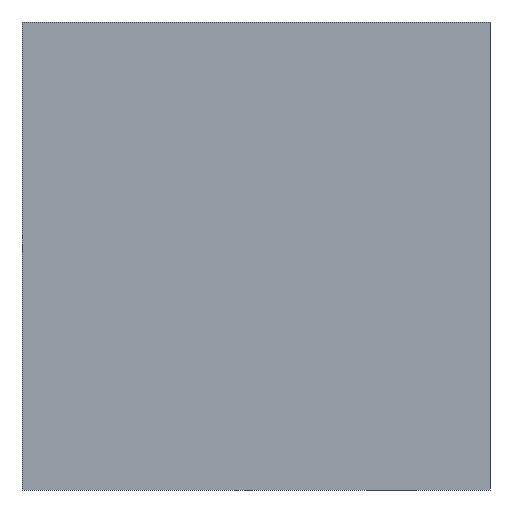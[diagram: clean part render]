
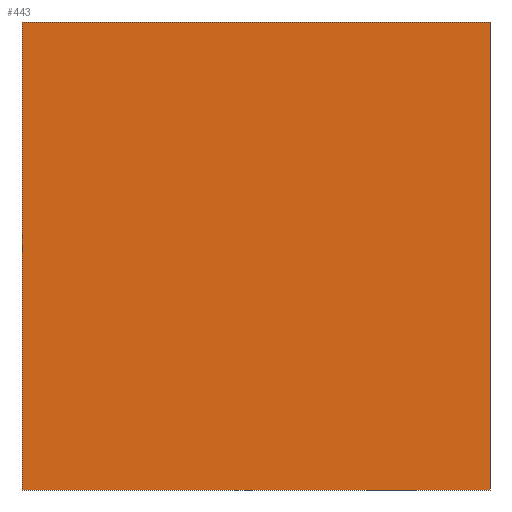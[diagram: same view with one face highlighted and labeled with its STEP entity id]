
A CAD part, left-side view. The second image highlights one B-rep face of the part: STEP entity #443.
In plain terms, the highlighted planar face has unit normal (-1, 0, 0).
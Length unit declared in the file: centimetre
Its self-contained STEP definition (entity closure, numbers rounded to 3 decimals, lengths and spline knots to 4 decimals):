
#6 = DIRECTION ( 'NONE',  ( 0., -1., 0. ) ) ;
#16 = VERTEX_POINT ( 'NONE', #225 ) ;
#17 = PLANE ( 'NONE',  #117 ) ;
#71 = VECTOR ( 'NONE', #6, 100. ) ;
#81 = EDGE_CURVE ( 'NONE', #286, #88, #85, .T. ) ;
#85 = LINE ( 'NONE', #328, #162 ) ;
#88 = VERTEX_POINT ( 'NONE', #334 ) ;
#117 = AXIS2_PLACEMENT_3D ( 'NONE', #300, #153, #401 ) ;
#118 = DIRECTION ( 'NONE',  ( 0., 0., -1. ) ) ;
#133 = CARTESIAN_POINT ( 'NONE',  ( 0., 1000., 1000. ) ) ;
#140 = DIRECTION ( 'NONE',  ( 0., -1., 0. ) ) ;
#142 = LINE ( 'NONE', #282, #294 ) ;
#146 = DIRECTION ( 'NONE',  ( 0., 0., -1. ) ) ;
#153 = DIRECTION ( 'NONE',  ( 1., 0., 0. ) ) ;
#154 = VERTEX_POINT ( 'NONE', #416 ) ;
#162 = VECTOR ( 'NONE', #118, 100. ) ;
#171 = LINE ( 'NONE', #322, #324 ) ;
#180 = LINE ( 'NONE', #133, #71 ) ;
#220 = ORIENTED_EDGE ( 'NONE', *, *, #312, .T. ) ;
#225 = CARTESIAN_POINT ( 'NONE',  ( 0., 1000., 0. ) ) ;
#227 = EDGE_LOOP ( 'NONE', ( #220, #434, #318, #441 ) ) ;
#255 = FACE_OUTER_BOUND ( 'NONE', #227, .T. ) ;
#282 = CARTESIAN_POINT ( 'NONE',  ( 0., 1000., 0. ) ) ;
#286 = VERTEX_POINT ( 'NONE', #358 ) ;
#294 = VECTOR ( 'NONE', #140, 100. ) ;
#300 = CARTESIAN_POINT ( 'NONE',  ( 0., 1000., 1000. ) ) ;
#312 = EDGE_CURVE ( 'NONE', #16, #88, #142, .T. ) ;
#318 = ORIENTED_EDGE ( 'NONE', *, *, #387, .F. ) ;
#322 = CARTESIAN_POINT ( 'NONE',  ( 0., 1000., 1000. ) ) ;
#324 = VECTOR ( 'NONE', #146, 100. ) ;
#328 = CARTESIAN_POINT ( 'NONE',  ( 0., 0., 1000. ) ) ;
#334 = CARTESIAN_POINT ( 'NONE',  ( 0., 0., 0. ) ) ;
#358 = CARTESIAN_POINT ( 'NONE',  ( 0., 0., 1000. ) ) ;
#387 = EDGE_CURVE ( 'NONE', #154, #286, #180, .T. ) ;
#401 = DIRECTION ( 'NONE',  ( 0., 0., -1. ) ) ;
#407 = EDGE_CURVE ( 'NONE', #154, #16, #171, .T. ) ;
#416 = CARTESIAN_POINT ( 'NONE',  ( 0., 1000., 1000. ) ) ;
#434 = ORIENTED_EDGE ( 'NONE', *, *, #81, .F. ) ;
#441 = ORIENTED_EDGE ( 'NONE', *, *, #407, .T. ) ;
#443 = ADVANCED_FACE ( 'NONE', ( #255 ), #17, .F. ) ;
